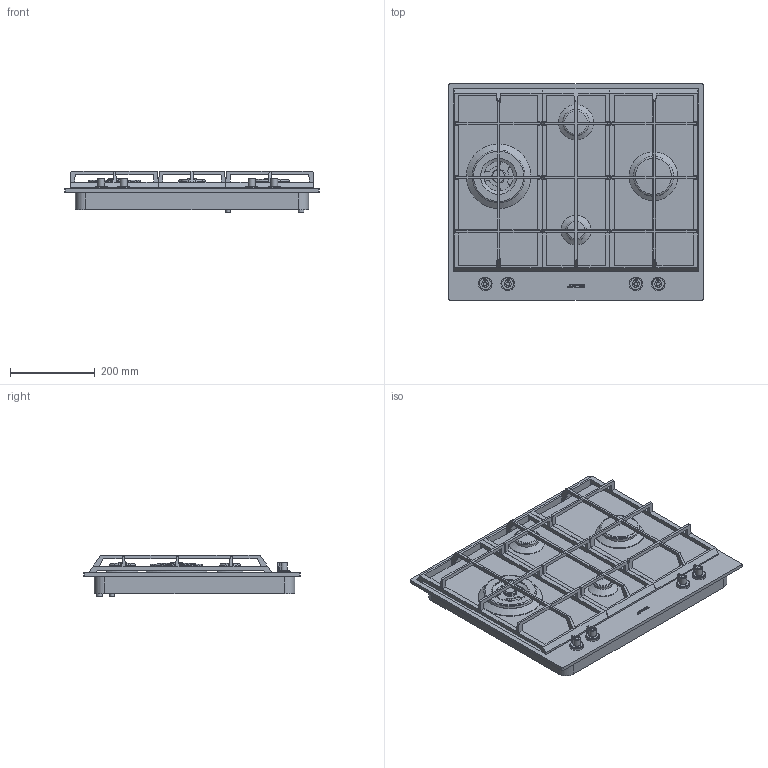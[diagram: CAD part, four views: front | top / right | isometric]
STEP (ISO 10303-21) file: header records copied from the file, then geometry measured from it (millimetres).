
FILE_DESCRIPTION(/* description */ (''),/* implementation_level */ '2;1');
FILE_NAME(/* name */ 'piano px164l.stp',/* time_stamp */ '2018-07-31T12:25:18+02:00',/* author */ (''),/* organization */ (''),/* preprocessor_version */ 'ST-DEVELOPER v16',/* originating_system */ 'SIEMENS PLM Software NX 11.0',/* authorisation */ '');
FILE_SCHEMA (('AUTOMOTIVE_DESIGN { 1 0 10303 214 3 1 1 1 }'));
Length unit declared in the file: millimetre
Products named in the file (1): gobb99643FE8pxub
Bounding box: 600 x 510 x 97.78 mm (x, y, z)
Volume: 12902184.1 mm3; surface area: 1766737 mm2
Topology: 33 solids, 33 shells, 644 faces, 1677 edges, 1078 vertices
Faces by surface type: plane 449, cylinder 157, cone 12, extrusion 11, torus 9, sphere 6
Full cylindrical faces by diameter (mm): 3.37 x6, 6 x12, 9 x4, 10 x1, 14 x2, 18 x4, 23 x5, 23.5 x1, 26 x1, 28 x1, 30 x4, 32 x5, 42 x1, 43 x1, 55 x1, 56 x1, 70.5 x1, 79.5 x1, 83 x1, 85 x1, 87 x1, 88 x1, 89.5 x1, 90 x1, 98.5 x1, 106.5 x1, 111 x1, 113.5 x1, 115 x1, 122 x1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
Entity records: 19461 total; most frequent: CARTESIAN_POINT 3603, DIRECTION 3183, ORIENTED_EDGE 3116, EDGE_CURVE 1558, VECTOR 1161, LINE 1150, VERTEX_POINT 1049, AXIS2_PLACEMENT_3D 1011
